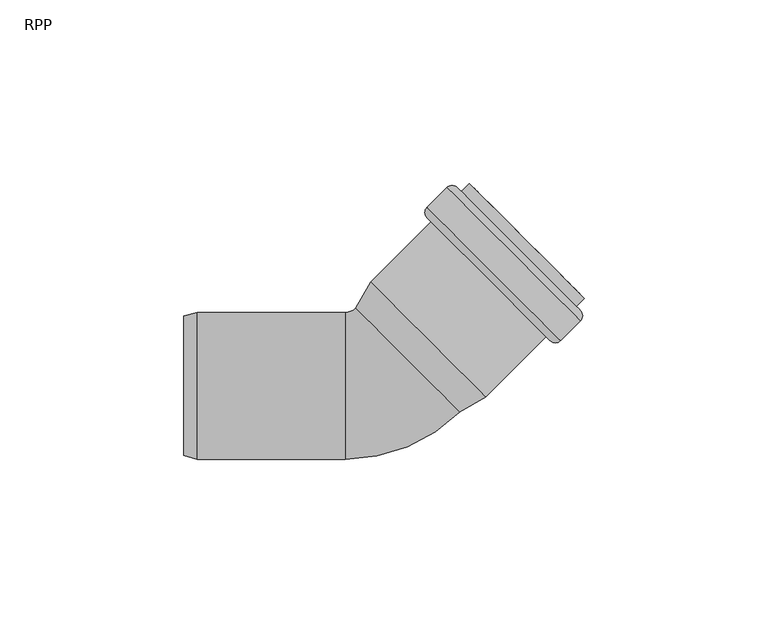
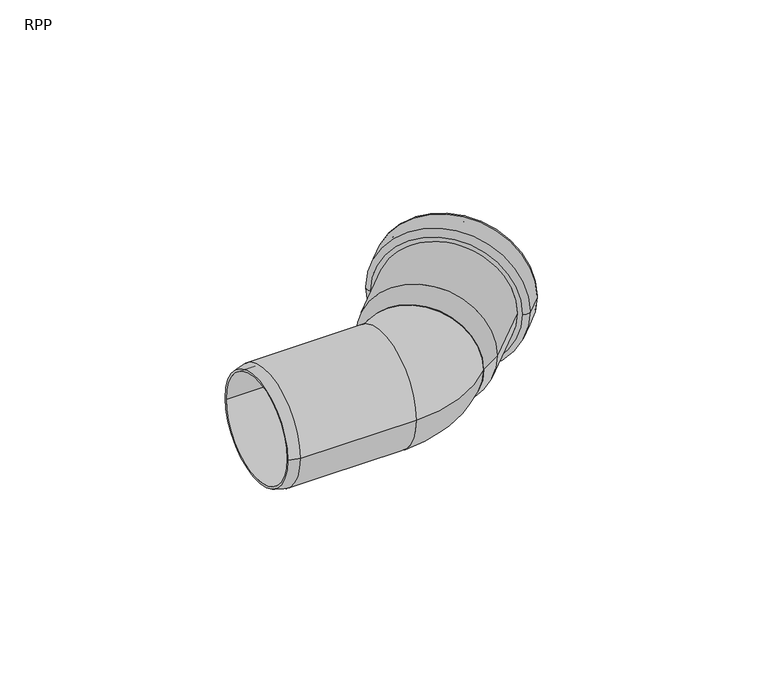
"""IFC4 building model written with IfcOpenShell, lengths in millimetres: pipe fitting geometry, RAUPIANO PLUS Bend : RPP."""

from ifc_helpers import new_model, si_unit, point, frame, origin, place, context, project, spatial, polyline, circle_curve, ellipse_curve, trimmed, source, transform, mapped, element, save
from ifc_brep_helpers import plane_surface, cylinder_surface, revolved_surface, advanced_brep


def rpp_75d199fe(model_context):
    return source(origin(), model_context, "Body", "AdvancedBrep", [
        advanced_brep(
        [(19.8538814, -5.7950069, 0.0), (-5.7950069, 19.8538814, 0.0), (-1.6154514, 27.0930839, 0.0), (27.0930839, -1.6154514, 0.0), (28.1983098, -3.0558099, 0.0), (-3.0558099, 28.1983098, 0.0), (-7.1126984, 21.1715729, 0.0), (21.1715729, -7.1126984, 0.0), (44.647518, 13.3933983, 0.0), (13.3933983, 44.647518, 0.0), (53.9813275, 17.636039, 0.0), (17.636039, 53.9813275, 0.0), (12.2620274, 48.607316, 0.0), (48.607316, 12.2620274, 0.0), (55.0419877, 23.787868, 0.0), (23.787868, 55.0419877, 0.0), (21.5958369, 52.8499567, 0.0), (52.8499567, 21.5958369, 0.0), (50.3043723, 21.5958369, 0.0), (21.5958369, 50.3043723, 0.0), (25.0606602, 53.7691955, 0.0), (53.7691955, 25.0606602, 0.0), (47.5466558, 13.7469517, 0.0), (13.7469517, 47.5466558, 0.0), (18.6966991, 52.4964033, 0.0), (52.4964033, 18.6966991, 0.0), (15.9389827, 44.647518, 0.0), (44.647518, 15.9389827, 0.0), (12.2620274, 45.7788889, 0.0), (45.7788889, 12.2620274, 0.0), (53.9813275, 20.4644661, 0.0), (20.4644661, 53.9813275, 0.0), (19.4038059, 52.4964033, 0.0), (52.4964033, 19.4038059, 0.0), (46.839549, 13.7469517, 0.0), (13.7469517, 46.839549, 0.0)],
        [
            (0, 1, circle_curve(frame((7.0294373, 7.0294373, 0.0), z_axis=(-0.7071067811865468, -0.7071067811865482, 0.0), x_axis=(-0.7071067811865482, 0.7071067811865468, 0.0)), 18.1365029)),
            (1, 2),
            (2, 3, circle_curve(frame((12.7388162, 12.7388162, 0.0), z_axis=(0.7071067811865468, 0.7071067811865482, 0.0), x_axis=(-0.7071067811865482, 0.7071067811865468, 0.0)), 20.3)),
            (3, 0),
            (4, 5, circle_curve(frame((12.57125, 12.57125, 0.0), z_axis=(-0.7071067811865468, -0.7071067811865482, 0.0), x_axis=(-0.7071067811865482, 0.7071067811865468, 0.0)), 22.1)),
            (5, 6),
            (6, 7, circle_curve(frame((7.0294373, 7.0294373, 0.0), z_axis=(0.7071067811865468, 0.7071067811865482, 0.0), x_axis=(-0.7071067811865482, 0.7071067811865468, 0.0)), 20.0)),
            (7, 4),
            (8, 9, circle_curve(frame((29.0204581, 29.0204581, 0.0), z_axis=(-0.7071067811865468, -0.7071067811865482, 0.0), x_axis=(-0.7071067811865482, 0.7071067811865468, 0.0)), 22.1)),
            (9, 5),
            (4, 8),
            (10, 11, circle_curve(frame((35.8086832, 35.8086832, 0.0), z_axis=(-0.7071067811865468, -0.7071067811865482, 0.0), x_axis=(-0.7071067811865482, 0.7071067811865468, 0.0)), 25.7)),
            (11, 12),
            (12, 13, circle_curve(frame((30.4346717, 30.4346717, 0.0), z_axis=(0.7071067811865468, 0.7071067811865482, 0.0), x_axis=(-0.7071067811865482, 0.7071067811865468, 0.0)), 25.7)),
            (13, 10),
            (14, 15, circle_curve(frame((39.4149278, 39.4149278, 0.0), z_axis=(-0.7071067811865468, -0.7071067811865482, 0.0), x_axis=(-0.7071067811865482, 0.7071067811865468, 0.0)), 22.1)),
            (15, 16),
            (16, 17, circle_curve(frame((37.2228968, 37.2228968, 0.0), z_axis=(0.7071067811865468, 0.7071067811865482, 0.0), x_axis=(-0.7071067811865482, 0.7071067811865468, 0.0)), 22.1)),
            (17, 14),
            (18, 19, circle_curve(frame((35.9501046, 35.9501046, 0.0), z_axis=(-0.7071067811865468, -0.7071067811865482, 0.0), x_axis=(-0.7071067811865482, 0.7071067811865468, 0.0)), 20.3)),
            (19, 20),
            (20, 21, circle_curve(frame((39.4149278, 39.4149278, 0.0), z_axis=(0.7071067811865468, 0.7071067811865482, 0.0), x_axis=(-0.7071067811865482, 0.7071067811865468, 0.0)), 20.3)),
            (21, 18),
            (22, 23, circle_curve(frame((30.6468037, 30.6468037, 0.0), z_axis=(-0.7071067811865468, -0.7071067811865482, 0.0), x_axis=(-0.7071067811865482, 0.7071067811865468, 0.0)), 23.9)),
            (23, 24),
            (24, 25, circle_curve(frame((35.5965512, 35.5965512, 0.0), z_axis=(0.7071067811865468, 0.7071067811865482, 0.0), x_axis=(-0.7071067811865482, 0.7071067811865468, 0.0)), 23.9)),
            (25, 22),
            (2, 26),
            (26, 27, circle_curve(frame((30.2932504, 30.2932504, 0.0), z_axis=(0.7071067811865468, 0.7071067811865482, 0.0), x_axis=(-0.7071067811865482, 0.7071067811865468, 0.0)), 20.3)),
            (27, 3),
            (1, 0, circle_curve(frame((7.0294373, 7.0294373, 0.0), z_axis=(-0.7071067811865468, -0.7071067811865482, 0.0), x_axis=(0.7071067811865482, -0.7071067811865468, 0.0)), 18.1365029)),
            (3, 2, circle_curve(frame((12.7388162, 12.7388162, 0.0), z_axis=(0.7071067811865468, 0.7071067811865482, 0.0), x_axis=(0.7071067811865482, -0.7071067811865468, 0.0)), 20.3)),
            (6, 7, circle_curve(frame((7.0294373, 7.0294373, 0.0), z_axis=(-0.7071067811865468, -0.7071067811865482, 0.0), x_axis=(0.7071067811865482, -0.7071067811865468, 0.0)), 20.0)),
            (5, 4, circle_curve(frame((12.57125, 12.57125, 0.0), z_axis=(-0.7071067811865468, -0.7071067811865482, 0.0), x_axis=(0.7071067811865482, -0.7071067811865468, 0.0)), 22.1)),
            (9, 8, circle_curve(frame((29.0204581, 29.0204581, 0.0), z_axis=(-0.7071067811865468, -0.7071067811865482, 0.0), x_axis=(0.7071067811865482, -0.7071067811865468, 0.0)), 22.1)),
            (28, 29, circle_curve(frame((29.0204581, 29.0204581, 0.0), z_axis=(-0.7071067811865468, -0.7071067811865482, 0.0), x_axis=(0.7071067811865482, -0.7071067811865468, 0.0)), 23.7)),
            (29, 28, circle_curve(frame((29.0204581, 29.0204581, 0.0), z_axis=(-0.7071067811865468, -0.7071067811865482, 0.0), x_axis=(-0.7071067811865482, 0.7071067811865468, 0.0)), 23.7)),
            (11, 10, circle_curve(frame((35.8086832, 35.8086832, 0.0), z_axis=(-0.7071067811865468, -0.7071067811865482, 0.0), x_axis=(0.7071067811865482, -0.7071067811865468, 0.0)), 25.7)),
            (13, 12, circle_curve(frame((30.4346717, 30.4346717, 0.0), z_axis=(0.7071067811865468, 0.7071067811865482, 0.0), x_axis=(0.7071067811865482, -0.7071067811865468, 0.0)), 25.7)),
            (30, 31, circle_curve(frame((37.2228968, 37.2228968, 0.0), z_axis=(0.7071067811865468, 0.7071067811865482, 0.0), x_axis=(0.7071067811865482, -0.7071067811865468, 0.0)), 23.7)),
            (31, 30, circle_curve(frame((37.2228968, 37.2228968, 0.0), z_axis=(0.7071067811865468, 0.7071067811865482, 0.0), x_axis=(-0.7071067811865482, 0.7071067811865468, 0.0)), 23.7)),
            (16, 17, circle_curve(frame((37.2228968, 37.2228968, 0.0), z_axis=(-0.7071067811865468, -0.7071067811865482, 0.0), x_axis=(0.7071067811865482, -0.7071067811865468, 0.0)), 22.1)),
            (15, 14, circle_curve(frame((39.4149278, 39.4149278, 0.0), z_axis=(-0.7071067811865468, -0.7071067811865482, 0.0), x_axis=(0.7071067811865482, -0.7071067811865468, 0.0)), 22.1)),
            (20, 21, circle_curve(frame((39.4149278, 39.4149278, 0.0), z_axis=(-0.7071067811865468, -0.7071067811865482, 0.0), x_axis=(0.7071067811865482, -0.7071067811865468, 0.0)), 20.3)),
            (19, 18, circle_curve(frame((35.9501046, 35.9501046, 0.0), z_axis=(-0.7071067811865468, -0.7071067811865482, 0.0), x_axis=(0.7071067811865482, -0.7071067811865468, 0.0)), 20.3)),
            (32, 33, circle_curve(frame((35.9501046, 35.9501046, 0.0), z_axis=(-0.7071067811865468, -0.7071067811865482, 0.0), x_axis=(0.7071067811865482, -0.7071067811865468, 0.0)), 23.4)),
            (33, 32, circle_curve(frame((35.9501046, 35.9501046, 0.0), z_axis=(-0.7071067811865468, -0.7071067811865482, 0.0), x_axis=(-0.7071067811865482, 0.7071067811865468, 0.0)), 23.4)),
            (23, 22, circle_curve(frame((30.6468037, 30.6468037, 0.0), z_axis=(-0.7071067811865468, -0.7071067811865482, 0.0), x_axis=(0.7071067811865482, -0.7071067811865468, 0.0)), 23.9)),
            (25, 24, circle_curve(frame((35.5965512, 35.5965512, 0.0), z_axis=(0.7071067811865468, 0.7071067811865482, 0.0), x_axis=(0.7071067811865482, -0.7071067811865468, 0.0)), 23.9)),
            (34, 35, circle_curve(frame((30.2932504, 30.2932504, 0.0), z_axis=(0.7071067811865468, 0.7071067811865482, 0.0), x_axis=(0.7071067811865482, -0.7071067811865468, 0.0)), 23.4)),
            (35, 34, circle_curve(frame((30.2932504, 30.2932504, 0.0), z_axis=(0.7071067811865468, 0.7071067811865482, 0.0), x_axis=(-0.7071067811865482, 0.7071067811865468, 0.0)), 23.4)),
            (26, 27, circle_curve(frame((30.2932504, 30.2932504, 0.0), z_axis=(-0.7071067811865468, -0.7071067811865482, 0.0), x_axis=(0.7071067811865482, -0.7071067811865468, 0.0)), 20.3)),
            (12, 28, circle_curve(frame((13.676241, 47.1931024, 0.0), z_axis=(0.0, 0.0, 1.0), x_axis=(0.7071067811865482, -0.7071067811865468, 0.0)), 2.0)),
            (29, 13, circle_curve(frame((47.1931024, 13.676241, 0.0), z_axis=(0.0, 0.0, 1.0), x_axis=(-0.7071067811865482, 0.7071067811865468, 0.0)), 2.0)),
            (31, 11, circle_curve(frame((19.0502525, 52.567114, 0.0), z_axis=(0.0, 0.0, 1.0), x_axis=(0.7071067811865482, -0.7071067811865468, 0.0)), 2.0)),
            (10, 30, circle_curve(frame((52.567114, 19.0502525, 0.0), z_axis=(0.0, 0.0, 1.0), x_axis=(-0.7071067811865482, 0.7071067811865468, 0.0)), 2.0)),
            (24, 32, circle_curve(frame((19.0502525, 52.1428499, 0.0), z_axis=(0.0, 0.0, -1.0), x_axis=(0.7071067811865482, -0.7071067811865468, 0.0)), 0.5)),
            (33, 25, circle_curve(frame((52.1428499, 19.0502525, 0.0), z_axis=(0.0, 0.0, -1.0), x_axis=(-0.7071067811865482, 0.7071067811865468, 0.0)), 0.5)),
            (35, 23, circle_curve(frame((14.1005051, 47.1931024, 0.0), z_axis=(0.0, 0.0, -1.0), x_axis=(0.7071067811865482, -0.7071067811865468, 0.0)), 0.5)),
            (22, 34, circle_curve(frame((47.1931024, 14.1005051, 0.0), z_axis=(0.0, 0.0, -1.0), x_axis=(-0.7071067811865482, 0.7071067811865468, 0.0)), 0.5)),
        ],
        [
            revolved_surface(polyline([(-1.6154514, 27.0930839, 0.0), (-5.7950069, 19.8538814, 0.0)]), (7.0294373, 7.0294373, 0.0), (0.7071067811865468, 0.7071067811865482, 0.0)),
            revolved_surface(polyline([(-7.1126984, 21.1715729, 0.0), (-3.0558099, 28.1983098, 0.0)]), (7.0294373, 7.0294373, 0.0), (0.7071067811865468, 0.7071067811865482, 0.0)),
            cylinder_surface(frame((7.0294373, 7.0294373, 0.0), z_axis=(0.7071067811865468, 0.7071067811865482, 0.0), x_axis=(-0.7071067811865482, 0.7071067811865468, 0.0)), 22.1),
            cylinder_surface(frame((7.0294373, 7.0294373, 0.0), z_axis=(0.7071067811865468, 0.7071067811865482, 0.0), x_axis=(-0.7071067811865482, 0.7071067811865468, 0.0)), 25.7),
            revolved_surface(polyline([(25.06066019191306, 53.76919550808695, 0.0), (21.59583694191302, 50.304372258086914, 0.0)]), (7.0294373, 7.0294373, 0.0), (0.7071067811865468, 0.7071067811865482, 0.0)),
            revolved_surface(polyline([(18.696699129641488, 52.49640327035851, 0.0), (13.746951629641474, 47.54665577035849, 0.0)]), (7.0294373, 7.0294373, 0.0), (0.7071067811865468, 0.7071067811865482, 0.0)),
            revolved_surface(polyline([(15.938982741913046, 44.64751805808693, 0.0), (-1.6154514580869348, 27.093083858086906, 0.0)]), (7.0294373, 7.0294373, 0.0), (0.7071067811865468, 0.7071067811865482, 0.0)),
            revolved_surface(polyline([(27.0930839, -1.6154514, 0.0), (19.8538814, -5.7950069, 0.0)]), (7.0294373, 7.0294373, 0.0), (0.7071067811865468, 0.7071067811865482, 0.0)),
            plane_surface(frame((7.0294373, 7.0294373, 0.0), z_axis=(-0.7071067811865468, -0.7071067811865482, 0.0), x_axis=(0.7071067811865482, -0.7071067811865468, 0.0))),
            revolved_surface(polyline([(21.1715729, -7.1126984, 0.0), (28.1983098, -3.0558099, 0.0)]), (7.0294373, 7.0294373, 0.0), (0.7071067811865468, 0.7071067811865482, 0.0)),
            cylinder_surface(frame((7.0294373, 7.0294373, 0.0), z_axis=(0.7071067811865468, 0.7071067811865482, 0.0), x_axis=(0.7071067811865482, -0.7071067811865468, 0.0)), 22.1),
            plane_surface(frame((29.0204581, 29.0204581, 0.0), z_axis=(-0.7071067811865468, -0.7071067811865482, 0.0), x_axis=(0.7071067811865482, -0.7071067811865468, 0.0))),
            cylinder_surface(frame((7.0294373, 7.0294373, 0.0), z_axis=(0.7071067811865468, 0.7071067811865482, 0.0), x_axis=(0.7071067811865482, -0.7071067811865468, 0.0)), 25.7),
            plane_surface(frame((37.2228968, 37.2228968, 0.0), z_axis=(0.7071067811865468, 0.7071067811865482, 0.0), x_axis=(0.7071067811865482, -0.7071067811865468, 0.0))),
            plane_surface(frame((39.4149278, 39.4149278, 0.0), z_axis=(0.7071067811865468, 0.7071067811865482, 0.0), x_axis=(0.7071067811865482, -0.7071067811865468, 0.0))),
            revolved_surface(polyline([(53.769195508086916, 25.06066019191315, 0.0), (50.304372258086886, 21.595836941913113, 0.0)]), (7.0294373, 7.0294373, 0.0), (0.7071067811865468, 0.7071067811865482, 0.0)),
            plane_surface(frame((35.9501046, 35.9501046, 0.0), z_axis=(-0.7071067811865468, -0.7071067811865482, 0.0), x_axis=(0.7071067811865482, -0.7071067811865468, 0.0))),
            revolved_surface(polyline([(52.4964032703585, 18.69669912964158, 0.0), (47.546655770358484, 13.746951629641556, 0.0)]), (7.0294373, 7.0294373, 0.0), (0.7071067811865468, 0.7071067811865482, 0.0)),
            plane_surface(frame((30.2932504, 30.2932504, 0.0), z_axis=(0.7071067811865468, 0.7071067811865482, 0.0), x_axis=(0.7071067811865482, -0.7071067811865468, 0.0))),
            revolved_surface(polyline([(44.6475180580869, 15.938982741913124, 0.0), (27.093083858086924, -1.6154514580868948, 0.0)]), (7.0294373, 7.0294373, 0.0), (0.7071067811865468, 0.7071067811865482, 0.0)),
            revolved_surface(trimmed(ellipse_curve(frame((13.676241, 47.1931024, 0.0), z_axis=(0.0, 0.0, -1.0), x_axis=(0.7071067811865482, -0.7071067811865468, 0.0)), 2.0, 2.0), [point((12.2620274, 45.7788889, 0.0))], [point((12.2620274, 48.607316, 0.0))], True, "CARTESIAN"), (7.0294373, 7.0294373, 0.0), (0.7071067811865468, 0.7071067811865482, 0.0)),
            revolved_surface(trimmed(ellipse_curve(frame((19.0502525, 52.567114, 0.0), z_axis=(0.0, 0.0, -1.0), x_axis=(0.7071067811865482, -0.7071067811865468, 0.0)), 2.0, 2.0), [point((17.636039, 53.9813275, 0.0))], [point((20.4644661, 53.9813275, 0.0))], True, "CARTESIAN"), (7.0294373, 7.0294373, 0.0), (0.7071067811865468, 0.7071067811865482, 0.0)),
            revolved_surface(trimmed(ellipse_curve(frame((19.0502525, 52.1428499, 0.0), z_axis=(0.0, 0.0, 1.0), x_axis=(0.7071067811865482, -0.7071067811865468, 0.0)), 0.5, 0.5), [point((19.4038059, 52.4964033, 0.0))], [point((18.6966991, 52.4964033, 0.0))], True, "CARTESIAN"), (7.0294373, 7.0294373, 0.0), (0.7071067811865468, 0.7071067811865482, 0.0)),
            revolved_surface(trimmed(ellipse_curve(frame((14.1005051, 47.1931024, 0.0), z_axis=(0.0, 0.0, 1.0), x_axis=(0.7071067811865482, -0.7071067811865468, 0.0)), 0.5, 0.5), [point((13.7469517, 47.5466558, 0.0))], [point((13.7469517, 46.839549, 0.0))], True, "CARTESIAN"), (7.0294373, 7.0294373, 0.0), (0.7071067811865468, 0.7071067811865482, 0.0)),
            revolved_surface(trimmed(ellipse_curve(frame((47.1931024, 13.676241, 0.0), z_axis=(0.0, 0.0, 1.0), x_axis=(-0.7071067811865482, 0.7071067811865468, 0.0)), 2.0, 2.0), [point((45.7788889, 12.2620274, 0.0))], [point((48.607316, 12.2620274, 0.0))], True, "CARTESIAN"), (7.0294373, 7.0294373, 0.0), (0.7071067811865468, 0.7071067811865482, 0.0)),
            revolved_surface(trimmed(ellipse_curve(frame((52.567114, 19.0502525, 0.0), z_axis=(0.0, 0.0, 1.0), x_axis=(-0.7071067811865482, 0.7071067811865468, 0.0)), 2.0, 2.0), [point((53.9813275, 17.636039, 0.0))], [point((53.9813275, 20.4644661, 0.0))], True, "CARTESIAN"), (7.0294373, 7.0294373, 0.0), (0.7071067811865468, 0.7071067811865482, 0.0)),
            revolved_surface(trimmed(ellipse_curve(frame((52.1428499, 19.0502525, 0.0), z_axis=(0.0, 0.0, -1.0), x_axis=(-0.7071067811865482, 0.7071067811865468, 0.0)), 0.5, 0.5), [point((52.4964033, 19.4038059, 0.0))], [point((52.4964033, 18.6966991, 0.0))], True, "CARTESIAN"), (7.0294373, 7.0294373, 0.0), (0.7071067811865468, 0.7071067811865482, 0.0)),
            revolved_surface(trimmed(ellipse_curve(frame((47.1931024, 14.1005051, 0.0), z_axis=(0.0, 0.0, -1.0), x_axis=(-0.7071067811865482, 0.7071067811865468, 0.0)), 0.5, 0.5), [point((47.5466558, 13.7469517, 0.0))], [point((46.839549, 13.7469517, 0.0))], True, "CARTESIAN"), (7.0294373, 7.0294373, 0.0), (0.7071067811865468, 0.7071067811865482, 0.0)),
        ],
        [
            (0, [[1, 2, 3, 4]]),
            (1, [[5, 6, 7, 8]]),
            (2, [[9, 10, -5, 11]]),
            (3, [[12, 13, 14, 15]]),
            (2, [[16, 17, 18, 19]]),
            (4, [[20, 21, 22, 23]]),
            (5, [[24, 25, 26, 27]]),
            (6, [[-3, 28, 29, 30]]),
            (7, [[31, -4, 32, -2]]),
            (8, [[33, -7], [-31, -1]]),
            (9, [[34, -8, -33, -6]]),
            (10, [[35, -11, -34, -10]]),
            (11, [[36, 37], [-35, -9]]),
            (12, [[38, -15, 39, -13]]),
            (13, [[40, 41], [42, -18]]),
            (10, [[43, -19, -42, -17]]),
            (14, [[-43, -16], [44, -22]]),
            (15, [[45, -23, -44, -21]]),
            (16, [[46, 47], [-45, -20]]),
            (17, [[48, -27, 49, -25]]),
            (18, [[50, 51], [52, -29]]),
            (19, [[-32, -30, -52, -28]]),
            (20, [[-14, 53, -37, 54]]),
            (21, [[-41, 55, -12, 56]]),
            (22, [[-26, 57, -47, 58]]),
            (23, [[-51, 59, -24, 60]]),
            (24, [[-39, -54, -36, -53]]),
            (25, [[-40, -56, -38, -55]]),
            (26, [[-49, -58, -46, -57]]),
            (27, [[-50, -60, -48, -59]]),
        ],
    ),
        advanced_brep(
        [(-9.9411255, 18.2, 0.0), (-9.9411255, -18.2, 0.0), (-53.9411255, -18.2, 0.0), (-53.9411255, 18.2, 0.0), (-50.2090747, 20.0, 0.0), (-50.2090747, -20.0, 0.0), (-9.9411255, -20.0, 0.0), (-9.9411255, 20.0, 0.0), (-53.9411255, 19.0, 0.0), (-53.9411255, -19.0, 0.0)],
        [
            (0, 1, circle_curve(frame((-9.9411255, 0.0, 0.0), z_axis=(1.0, 0.0, 0.0), x_axis=(0.0, -1.0, 0.0)), 18.2)),
            (1, 2),
            (2, 3, circle_curve(frame((-53.9411255, 0.0, 0.0), z_axis=(-1.0, 0.0, 0.0), x_axis=(0.0, -1.0, 0.0)), 18.2)),
            (3, 0),
            (4, 5, circle_curve(frame((-50.2090747, 0.0, 0.0), z_axis=(1.0, 0.0, 0.0), x_axis=(0.0, -1.0, 0.0)), 20.0)),
            (5, 6),
            (6, 7, circle_curve(frame((-9.9411255, 0.0, 0.0), z_axis=(-1.0, 0.0, 0.0), x_axis=(0.0, -1.0, 0.0)), 20.0)),
            (7, 4),
            (8, 9, circle_curve(frame((-53.9411255, 0.0, 0.0), z_axis=(1.0, 0.0, 0.0), x_axis=(0.0, -1.0, 0.0)), 19.0)),
            (9, 5),
            (4, 8),
            (1, 0, circle_curve(frame((-9.9411255, 0.0, 0.0), z_axis=(1.0, 0.0, 0.0), x_axis=(0.0, 1.0, 0.0)), 18.2)),
            (3, 2, circle_curve(frame((-53.9411255, 0.0, 0.0), z_axis=(-1.0, 0.0, 0.0), x_axis=(0.0, 1.0, 0.0)), 18.2)),
            (6, 7, circle_curve(frame((-9.9411255, 0.0, 0.0), z_axis=(1.0, 0.0, 0.0), x_axis=(0.0, 1.0, 0.0)), 20.0)),
            (5, 4, circle_curve(frame((-50.2090747, 0.0, 0.0), z_axis=(1.0, 0.0, 0.0), x_axis=(0.0, 1.0, 0.0)), 20.0)),
            (9, 8, circle_curve(frame((-53.9411255, 0.0, 0.0), z_axis=(1.0, 0.0, 0.0), x_axis=(0.0, 1.0, 0.0)), 19.0)),
        ],
        [
            revolved_surface(polyline([(-53.9411255, -18.2, 0.0), (-9.9411255, -18.2, 0.0)]), (-9.9411255, 0.0, 0.0), (-1.0, 0.0, 0.0)),
            cylinder_surface(frame((-9.9411255, 0.0, 0.0), z_axis=(-1.0, 0.0, 0.0), x_axis=(0.0, -1.0, 0.0)), 20.0),
            revolved_surface(polyline([(-50.2090747, -20.0, 0.0), (-53.9411255, -19.0, 0.0)]), (-9.9411255, 0.0, 0.0), (-1.0, 0.0, 0.0)),
            revolved_surface(polyline([(-53.9411255, 18.2, 0.0), (-9.9411255, 18.2, 0.0)]), (-9.9411255, 0.0, 0.0), (-1.0, 0.0, 0.0)),
            plane_surface(frame((-9.9411255, 0.0, 0.0), z_axis=(1.0, 0.0, 0.0), x_axis=(0.0, 1.0, 0.0))),
            cylinder_surface(frame((-9.9411255, 0.0, 0.0), z_axis=(-1.0, 0.0, 0.0), x_axis=(0.0, 1.0, 0.0)), 20.0),
            revolved_surface(polyline([(-50.2090747, 20.0, 0.0), (-53.9411255, 19.0, 0.0)]), (-9.9411255, 0.0, 0.0), (-1.0, 0.0, 0.0)),
            plane_surface(frame((-53.9411255, 0.0, 0.0), z_axis=(-1.0, 0.0, 0.0), x_axis=(0.0, 1.0, 0.0))),
        ],
        [
            (0, [[1, 2, 3, 4]]),
            (1, [[5, 6, 7, 8]]),
            (2, [[9, 10, -5, 11]]),
            (3, [[12, -4, 13, -2]]),
            (4, [[14, -7], [-12, -1]]),
            (5, [[15, -8, -14, -6]]),
            (6, [[16, -11, -15, -10]]),
            (7, [[-16, -9], [-13, -3]]),
        ],
    ),
        advanced_brep(
        [(-9.9411255, -20.0, 0.0), (-9.9411255, 20.0, 0.0), (-9.9411255, -18.2, 0.0), (-9.9411255, 18.2, 0.0), (21.1715729, -7.1126984, 0.0), (-7.1126984, 21.1715729, 0.0), (19.8987807, -5.8399062, 0.0), (-5.8399062, 19.8987807, 0.0)],
        [
            (0, 1, circle_curve(frame((-9.9411255, 0.0, 0.0), z_axis=(-1.0, 0.0, 0.0), x_axis=(0.0, 1.0, 0.0)), 20.0)),
            (1, 0, circle_curve(frame((-9.9411255, 0.0, 0.0), z_axis=(-1.0, 0.0, 0.0), x_axis=(0.0, 1.0, 0.0)), 20.0)),
            (2, 3, circle_curve(frame((-9.9411255, 0.0, 0.0), z_axis=(1.0, 0.0, 0.0), x_axis=(0.0, 1.0, 0.0)), 18.2)),
            (3, 2, circle_curve(frame((-9.9411255, 0.0, 0.0), z_axis=(1.0, 0.0, 0.0), x_axis=(0.0, 1.0, 0.0)), 18.2)),
            (4, 5, circle_curve(frame((7.0294373, 7.0294373, 0.0), z_axis=(0.7071067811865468, 0.7071067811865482, 0.0), x_axis=(-0.7071067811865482, 0.7071067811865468, 0.0)), 20.0)),
            (5, 4, circle_curve(frame((7.0294373, 7.0294373, 0.0), z_axis=(0.7071067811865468, 0.7071067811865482, 0.0), x_axis=(-0.7071067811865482, 0.7071067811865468, 0.0)), 20.0)),
            (6, 7, circle_curve(frame((7.0294373, 7.0294373, 0.0), z_axis=(-0.7071067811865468, -0.7071067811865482, 0.0), x_axis=(-0.7071067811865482, 0.7071067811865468, 0.0)), 18.2)),
            (7, 6, circle_curve(frame((7.0294373, 7.0294373, 0.0), z_axis=(-0.7071067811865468, -0.7071067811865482, 0.0), x_axis=(-0.7071067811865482, 0.7071067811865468, 0.0)), 18.2)),
            (7, 3, circle_curve(frame((-9.9411255, 24.0, 0.0), z_axis=(0.0, 0.0, -1.0), x_axis=(0.0, -1.0, 0.0)), 5.8)),
            (2, 6, circle_curve(frame((-9.9411255, 24.0, 0.0), z_axis=(0.0, 0.0, 1.0), x_axis=(0.0, -1.0, 0.0)), 42.2)),
            (5, 1, circle_curve(frame((-9.9411255, 24.0, 0.0), z_axis=(0.0, 0.0, -1.0), x_axis=(0.0, -1.0, 0.0)), 4.0)),
            (0, 4, circle_curve(frame((-9.9411255, 24.0, 0.0), z_axis=(0.0, 0.0, 1.0), x_axis=(0.0, -1.0, 0.0)), 44.0)),
        ],
        [
            plane_surface(frame((-9.9411255, 0.0, 0.0), z_axis=(-1.0, 0.0, 0.0), x_axis=(0.0, 0.0, 1.0))),
            plane_surface(frame((7.0294373, 7.0294373, 0.0), z_axis=(0.7071067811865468, 0.7071067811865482, 0.0), x_axis=(0.0, 0.0, 1.0))),
            revolved_surface(trimmed(ellipse_curve(frame((-9.9411255, 0.0, 0.0), z_axis=(1.0, 0.0, 0.0), x_axis=(0.0, 1.0, 0.0)), 18.2, 18.2), [point((-9.9411255, -18.2, 0.0))], [point((-9.9411255, 18.2, 0.0))], True, "CARTESIAN"), (-9.9411255, 24.0, 0.0), (0.0, 0.0, 1.0)),
            revolved_surface(trimmed(ellipse_curve(frame((-9.9411255, 0.0, 0.0), z_axis=(1.0, 0.0, 0.0), x_axis=(0.0, 1.0, 0.0)), 18.2, 18.2), [point((-9.9411255, 18.2, 0.0))], [point((-9.9411255, -18.2, 0.0))], True, "CARTESIAN"), (-9.9411255, 24.0, 0.0), (0.0, 0.0, 1.0)),
            revolved_surface(trimmed(ellipse_curve(frame((-9.9411255, 0.0, 0.0), z_axis=(-1.0, 0.0, 0.0), x_axis=(0.0, 1.0, 0.0)), 20.0, 20.0), [point((-9.9411255, -20.0, 0.0))], [point((-9.9411255, 20.0, 0.0))], True, "CARTESIAN"), (-9.9411255, 24.0, 0.0), (0.0, 0.0, 1.0)),
            revolved_surface(trimmed(ellipse_curve(frame((-9.9411255, 0.0, 0.0), z_axis=(-1.0, 0.0, 0.0), x_axis=(0.0, 1.0, 0.0)), 20.0, 20.0), [point((-9.9411255, 20.0, 0.0))], [point((-9.9411255, -20.0, 0.0))], True, "CARTESIAN"), (-9.9411255, 24.0, 0.0), (0.0, 0.0, 1.0)),
        ],
        [
            (0, [[1, 2], [3, 4]]),
            (1, [[5, 6], [7, 8]]),
            (2, [[9, -3, 10, -8]]),
            (3, [[-10, -4, -9, -7]]),
            (4, [[11, -1, 12, -6]]),
            (5, [[-12, -2, -11, -5]]),
        ],
    ),
    ])


if __name__ == "__main__":
    model = new_model("IFC4")
    model_context = context("Model", 3, world=origin())
    ifc_project = project(units=[si_unit("LENGTHUNIT", "METRE", prefix="MILLI")], contexts=[model_context])
    site = spatial("IfcSite", under=ifc_project)
    building = spatial("IfcBuilding", under=site)
    placement = place(None, origin())
    rpp_shape = rpp_75d199fe(model_context)
    element("IfcPipeFitting", 1, ObjectType="RAUPIANO PLUS Bend : RPP", at=placement, inside=building, context=model_context, shape_type="MappedRepresentation", body=[
        mapped(rpp_shape, transform((0.0, 0.0, 0.0), x_axis=(1.0, 0.0, 0.0), y_axis=(0.0, 1.0, 0.0), z_axis=(0.0, 0.0, 1.0))),
    ])
    save(model, "model.ifc")
